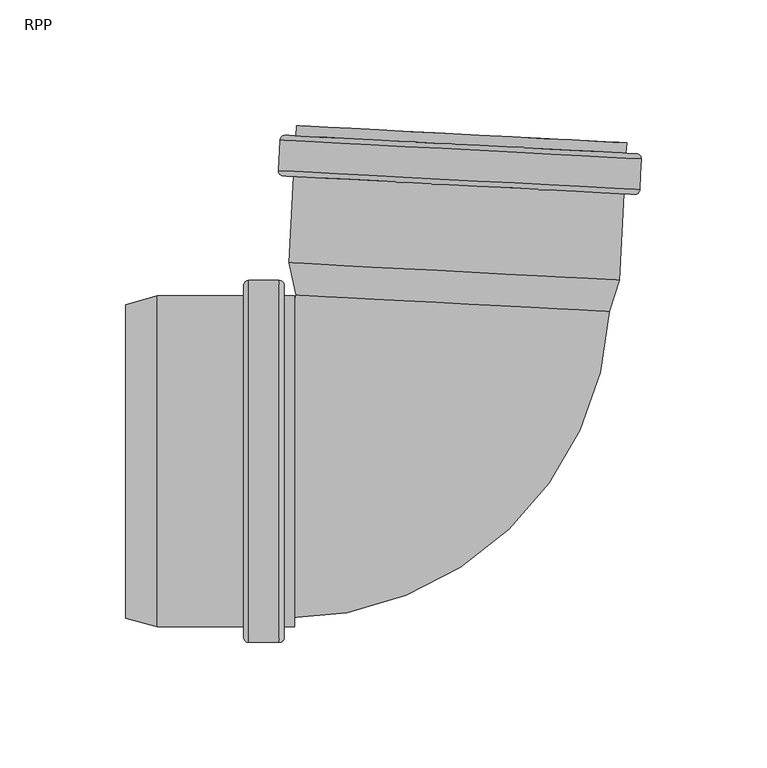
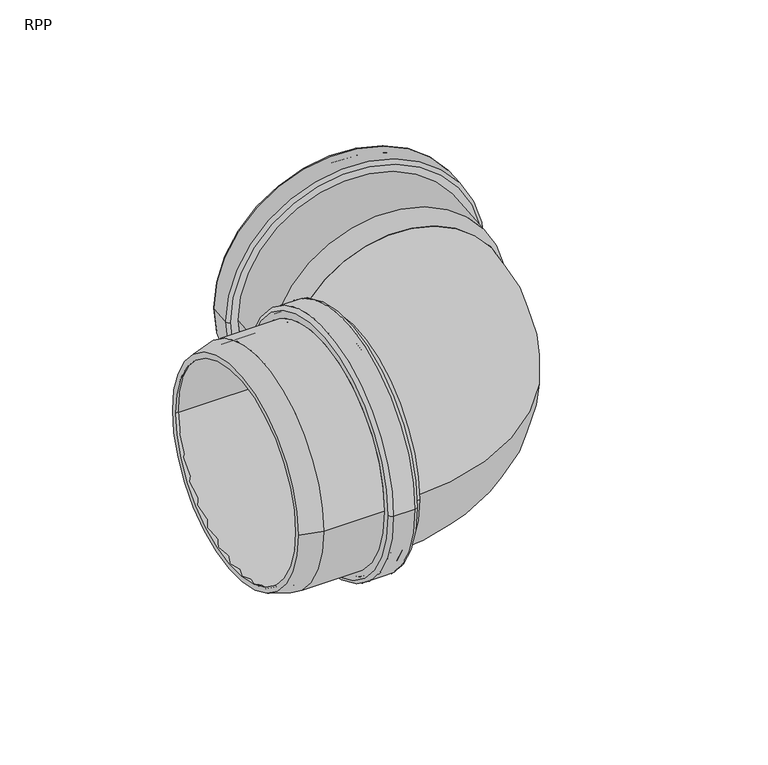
"""IFC4 building model written with IfcOpenShell, lengths in millimetres: pipe fitting geometry, RAUPIANO PLUS Bend : RPP."""

from ifc_helpers import new_model, si_unit, point, frame, origin, place, context, project, spatial, polyline, circle_curve, ellipse_curve, trimmed, source, transform, mapped, element, save
from ifc_brep_helpers import plane_surface, cylinder_surface, revolved_surface, advanced_brep


def rpp_27557139(model_context):
    return source(origin(), model_context, "Body", "AdvancedBrep", [
        advanced_brep(
        [(-76.9061437, -62.8, 0.0), (-76.9061437, 62.8, 0.0), (-114.0090482, 62.8, 0.0), (-114.0090482, -62.8, 0.0), (-76.4061437, -69.0, 0.0), (-76.4061437, 69.0, 0.0), (-76.9061437, 68.5, 0.0), (-76.9061437, -68.5, 0.0), (-67.4061437, -69.0, 0.0), (-67.4061437, 69.0, 0.0), (-66.9061437, -68.5, 0.0), (-66.9061437, 68.5, 0.0), (-59.7061437, -62.8, 0.0), (-59.7061437, 62.8, 0.0), (-66.9061437, 62.8, 0.0), (-66.9061437, -62.8, 0.0), (-63.8061437, -65.9, 0.0), (-63.8061437, 65.9, 0.0), (-59.7061437, 65.9, 0.0), (-59.7061437, -65.9, 0.0), (-65.8061437, -72.1, 0.0), (-65.8061437, 72.1, 0.0), (-63.8061437, 70.1, 0.0), (-63.8061437, -70.1, 0.0), (-78.0061437, -72.1, 0.0), (-78.0061437, 72.1, 0.0), (-80.0061437, -70.1, 0.0), (-80.0061437, 70.1, 0.0), (-114.4171709, -65.9, 0.0), (-114.4171709, 65.9, 0.0), (-80.0061437, 65.9, 0.0), (-80.0061437, -65.9, 0.0), (-127.1061437, -62.5, 0.0), (-127.1061437, 62.5, 0.0), (-127.1061437, 59.2906438, 0.0), (-127.1061437, -59.2906438, 0.0)],
        [
            (0, 1, circle_curve(frame((-76.9061437, 0.0, 0.0), z_axis=(1.0, 0.0, 0.0), x_axis=(0.0, 1.0, 0.0)), 62.8)),
            (1, 2),
            (2, 3, circle_curve(frame((-114.0090482, 0.0, 0.0), z_axis=(-1.0, 0.0, 0.0), x_axis=(0.0, 1.0, 0.0)), 62.8)),
            (3, 0),
            (4, 5, circle_curve(frame((-76.4061437, 0.0, 0.0), z_axis=(1.0, 0.0, 0.0), x_axis=(0.0, 1.0, 0.0)), 69.0)),
            (5, 6, circle_curve(frame((-76.4061437, 68.5, 0.0), z_axis=(0.0, 0.0, 1.0), x_axis=(0.0, -1.0, 0.0)), 0.5)),
            (6, 7, circle_curve(frame((-76.9061437, 0.0, 0.0), z_axis=(-1.0, 0.0, 0.0), x_axis=(0.0, 1.0, 0.0)), 68.5)),
            (7, 4, circle_curve(frame((-76.4061437, -68.5, 0.0), z_axis=(0.0, 0.0, 1.0), x_axis=(0.0, 1.0, 0.0)), 0.5)),
            (8, 9, circle_curve(frame((-67.4061437, 0.0, 0.0), z_axis=(1.0, 0.0, 0.0), x_axis=(0.0, 1.0, 0.0)), 69.0)),
            (9, 5),
            (4, 8),
            (10, 11, circle_curve(frame((-66.9061437, 0.0, 0.0), z_axis=(1.0, 0.0, 0.0), x_axis=(0.0, 1.0, 0.0)), 68.5)),
            (11, 9, circle_curve(frame((-67.4061437, 68.5, 0.0), z_axis=(0.0, 0.0, 1.0), x_axis=(0.0, -1.0, 0.0)), 0.5)),
            (8, 10, circle_curve(frame((-67.4061437, -68.5, 0.0), z_axis=(0.0, 0.0, 1.0), x_axis=(0.0, 1.0, 0.0)), 0.5)),
            (12, 13, circle_curve(frame((-59.7061437, 0.0, 0.0), z_axis=(1.0, 0.0, 0.0), x_axis=(0.0, 1.0, 0.0)), 62.8)),
            (13, 14),
            (14, 15, circle_curve(frame((-66.9061437, 0.0, 0.0), z_axis=(-1.0, 0.0, 0.0), x_axis=(0.0, 1.0, 0.0)), 62.8)),
            (15, 12),
            (16, 17, circle_curve(frame((-63.8061437, 0.0, 0.0), z_axis=(1.0, 0.0, 0.0), x_axis=(0.0, 1.0, 0.0)), 65.9)),
            (17, 18),
            (18, 19, circle_curve(frame((-59.7061437, 0.0, 0.0), z_axis=(-1.0, 0.0, 0.0), x_axis=(0.0, 1.0, 0.0)), 65.9)),
            (19, 16),
            (20, 21, circle_curve(frame((-65.8061437, 0.0, 0.0), z_axis=(1.0, 0.0, 0.0), x_axis=(0.0, 1.0, 0.0)), 72.1)),
            (21, 22, circle_curve(frame((-65.8061437, 70.1, 0.0), z_axis=(0.0, 0.0, -1.0), x_axis=(0.0, -1.0, 0.0)), 2.0)),
            (22, 23, circle_curve(frame((-63.8061437, 0.0, 0.0), z_axis=(-1.0, 0.0, 0.0), x_axis=(0.0, 1.0, 0.0)), 70.1)),
            (23, 20, circle_curve(frame((-65.8061437, -70.1, 0.0), z_axis=(0.0, 0.0, -1.0), x_axis=(0.0, 1.0, 0.0)), 2.0)),
            (24, 25, circle_curve(frame((-78.0061437, 0.0, 0.0), z_axis=(1.0, 0.0, 0.0), x_axis=(0.0, 1.0, 0.0)), 72.1)),
            (25, 21),
            (20, 24),
            (26, 27, circle_curve(frame((-80.0061437, 0.0, 0.0), z_axis=(1.0, 0.0, 0.0), x_axis=(0.0, 1.0, 0.0)), 70.1)),
            (27, 25, circle_curve(frame((-78.0061437, 70.1, 0.0), z_axis=(0.0, 0.0, -1.0), x_axis=(0.0, -1.0, 0.0)), 2.0)),
            (24, 26, circle_curve(frame((-78.0061437, -70.1, 0.0), z_axis=(0.0, 0.0, -1.0), x_axis=(0.0, 1.0, 0.0)), 2.0)),
            (28, 29, circle_curve(frame((-114.4171709, 0.0, 0.0), z_axis=(1.0, 0.0, 0.0), x_axis=(0.0, 1.0, 0.0)), 65.9)),
            (29, 30),
            (30, 31, circle_curve(frame((-80.0061437, 0.0, 0.0), z_axis=(-1.0, 0.0, 0.0), x_axis=(0.0, 1.0, 0.0)), 65.9)),
            (31, 28),
            (32, 33, circle_curve(frame((-127.1061437, 0.0, 0.0), z_axis=(1.0, 0.0, 0.0), x_axis=(0.0, 1.0, 0.0)), 62.5)),
            (33, 29),
            (28, 32),
            (2, 34),
            (34, 35, circle_curve(frame((-127.1061437, 0.0, 0.0), z_axis=(-1.0, 0.0, 0.0), x_axis=(0.0, 1.0, 0.0)), 59.2906438)),
            (35, 3),
            (1, 0, circle_curve(frame((-76.9061437, 0.0, 0.0), z_axis=(1.0, 0.0, 0.0), x_axis=(0.0, -1.0, 0.0)), 62.8)),
            (3, 2, circle_curve(frame((-114.0090482, 0.0, 0.0), z_axis=(-1.0, 0.0, 0.0), x_axis=(0.0, -1.0, 0.0)), 62.8)),
            (6, 7, circle_curve(frame((-76.9061437, 0.0, 0.0), z_axis=(1.0, 0.0, 0.0), x_axis=(0.0, -1.0, 0.0)), 68.5)),
            (5, 4, circle_curve(frame((-76.4061437, 0.0, 0.0), z_axis=(1.0, 0.0, 0.0), x_axis=(0.0, -1.0, 0.0)), 69.0)),
            (9, 8, circle_curve(frame((-67.4061437, 0.0, 0.0), z_axis=(1.0, 0.0, 0.0), x_axis=(0.0, -1.0, 0.0)), 69.0)),
            (11, 10, circle_curve(frame((-66.9061437, 0.0, 0.0), z_axis=(1.0, 0.0, 0.0), x_axis=(0.0, -1.0, 0.0)), 68.5)),
            (14, 15, circle_curve(frame((-66.9061437, 0.0, 0.0), z_axis=(1.0, 0.0, 0.0), x_axis=(0.0, -1.0, 0.0)), 62.8)),
            (13, 12, circle_curve(frame((-59.7061437, 0.0, 0.0), z_axis=(1.0, 0.0, 0.0), x_axis=(0.0, -1.0, 0.0)), 62.8)),
            (18, 19, circle_curve(frame((-59.7061437, 0.0, 0.0), z_axis=(1.0, 0.0, 0.0), x_axis=(0.0, -1.0, 0.0)), 65.9)),
            (17, 16, circle_curve(frame((-63.8061437, 0.0, 0.0), z_axis=(1.0, 0.0, 0.0), x_axis=(0.0, -1.0, 0.0)), 65.9)),
            (22, 23, circle_curve(frame((-63.8061437, 0.0, 0.0), z_axis=(1.0, 0.0, 0.0), x_axis=(0.0, -1.0, 0.0)), 70.1)),
            (21, 20, circle_curve(frame((-65.8061437, 0.0, 0.0), z_axis=(1.0, 0.0, 0.0), x_axis=(0.0, -1.0, 0.0)), 72.1)),
            (25, 24, circle_curve(frame((-78.0061437, 0.0, 0.0), z_axis=(1.0, 0.0, 0.0), x_axis=(0.0, -1.0, 0.0)), 72.1)),
            (27, 26, circle_curve(frame((-80.0061437, 0.0, 0.0), z_axis=(1.0, 0.0, 0.0), x_axis=(0.0, -1.0, 0.0)), 70.1)),
            (30, 31, circle_curve(frame((-80.0061437, 0.0, 0.0), z_axis=(1.0, 0.0, 0.0), x_axis=(0.0, -1.0, 0.0)), 65.9)),
            (29, 28, circle_curve(frame((-114.4171709, 0.0, 0.0), z_axis=(1.0, 0.0, 0.0), x_axis=(0.0, -1.0, 0.0)), 65.9)),
            (33, 32, circle_curve(frame((-127.1061437, 0.0, 0.0), z_axis=(1.0, 0.0, 0.0), x_axis=(0.0, -1.0, 0.0)), 62.5)),
            (34, 35, circle_curve(frame((-127.1061437, 0.0, 0.0), z_axis=(1.0, 0.0, 0.0), x_axis=(0.0, -1.0, 0.0)), 59.2906438)),
        ],
        [
            revolved_surface(polyline([(-114.0090482, 62.8, 0.0), (-76.9061437, 62.8, 0.0)]), (-127.1061437, 0.0, 0.0), (-1.0, 0.0, 0.0)),
            revolved_surface(trimmed(ellipse_curve(frame((-76.4061437, 68.5, 0.0), z_axis=(0.0, 0.0, -1.0), x_axis=(0.0, -1.0, 0.0)), 0.5, 0.5), [point((-76.9061437, 68.5, 0.0))], [point((-76.4061437, 69.0, 0.0))], True, "CARTESIAN"), (-127.1061437, 0.0, 0.0), (-1.0, 0.0, 0.0)),
            revolved_surface(polyline([(-76.4061437, 69.0, 0.0), (-67.4061437, 69.0, 0.0)]), (-127.1061437, 0.0, 0.0), (-1.0, 0.0, 0.0)),
            revolved_surface(trimmed(ellipse_curve(frame((-67.4061437, 68.5, 0.0), z_axis=(0.0, 0.0, -1.0), x_axis=(0.0, -1.0, 0.0)), 0.5, 0.5), [point((-67.4061437, 69.0, 0.0))], [point((-66.9061437, 68.5, 0.0))], True, "CARTESIAN"), (-127.1061437, 0.0, 0.0), (-1.0, 0.0, 0.0)),
            revolved_surface(polyline([(-66.9061437, 62.8, 0.0), (-59.7061437, 62.8, 0.0)]), (-127.1061437, 0.0, 0.0), (-1.0, 0.0, 0.0)),
            cylinder_surface(frame((-127.1061437, 0.0, 0.0), z_axis=(-1.0, 0.0, 0.0), x_axis=(0.0, 1.0, 0.0)), 65.9),
            revolved_surface(trimmed(ellipse_curve(frame((-65.8061437, 70.1, 0.0), z_axis=(0.0, 0.0, 1.0), x_axis=(0.0, -1.0, 0.0)), 2.0, 2.0), [point((-63.8061437, 70.1, 0.0))], [point((-65.8061437, 72.1, 0.0))], True, "CARTESIAN"), (-127.1061437, 0.0, 0.0), (-1.0, 0.0, 0.0)),
            cylinder_surface(frame((-127.1061437, 0.0, 0.0), z_axis=(-1.0, 0.0, 0.0), x_axis=(0.0, 1.0, 0.0)), 72.1),
            revolved_surface(trimmed(ellipse_curve(frame((-78.0061437, 70.1, 0.0), z_axis=(0.0, 0.0, 1.0), x_axis=(0.0, -1.0, 0.0)), 2.0, 2.0), [point((-78.0061437, 72.1, 0.0))], [point((-80.0061437, 70.1, 0.0))], True, "CARTESIAN"), (-127.1061437, 0.0, 0.0), (-1.0, 0.0, 0.0)),
            revolved_surface(polyline([(-114.4171709, 65.9, 0.0), (-127.1061437, 62.5, 0.0)]), (-127.1061437, 0.0, 0.0), (-1.0, 0.0, 0.0)),
            revolved_surface(polyline([(-127.1061437, 59.2906438, 0.0), (-114.0090482, 62.8, 0.0)]), (-127.1061437, 0.0, 0.0), (-1.0, 0.0, 0.0)),
            revolved_surface(polyline([(-114.0090482, -62.8, 0.0), (-76.9061437, -62.8, 0.0)]), (-127.1061437, 0.0, 0.0), (-1.0, 0.0, 0.0)),
            plane_surface(frame((-76.9061437, 0.0, 0.0), z_axis=(1.0, 0.0, 0.0), x_axis=(0.0, -1.0, 0.0))),
            revolved_surface(trimmed(ellipse_curve(frame((-76.4061437, -68.5, 0.0), z_axis=(0.0, 0.0, 1.0), x_axis=(0.0, 1.0, 0.0)), 0.5, 0.5), [point((-76.9061437, -68.5, 0.0))], [point((-76.4061437, -69.0, 0.0))], True, "CARTESIAN"), (-127.1061437, 0.0, 0.0), (-1.0, 0.0, 0.0)),
            revolved_surface(polyline([(-76.4061437, -69.0, 0.0), (-67.4061437, -69.0, 0.0)]), (-127.1061437, 0.0, 0.0), (-1.0, 0.0, 0.0)),
            revolved_surface(trimmed(ellipse_curve(frame((-67.4061437, -68.5, 0.0), z_axis=(0.0, 0.0, 1.0), x_axis=(0.0, 1.0, 0.0)), 0.5, 0.5), [point((-67.4061437, -69.0, 0.0))], [point((-66.9061437, -68.5, 0.0))], True, "CARTESIAN"), (-127.1061437, 0.0, 0.0), (-1.0, 0.0, 0.0)),
            plane_surface(frame((-66.9061437, 0.0, 0.0), z_axis=(-1.0, 0.0, 0.0), x_axis=(0.0, -1.0, 0.0))),
            revolved_surface(polyline([(-66.9061437, -62.8, 0.0), (-59.7061437, -62.8, 0.0)]), (-127.1061437, 0.0, 0.0), (-1.0, 0.0, 0.0)),
            plane_surface(frame((-59.7061437, 0.0, 0.0), z_axis=(1.0, 0.0, 0.0), x_axis=(0.0, -1.0, 0.0))),
            cylinder_surface(frame((-127.1061437, 0.0, 0.0), z_axis=(-1.0, 0.0, 0.0), x_axis=(0.0, -1.0, 0.0)), 65.9),
            plane_surface(frame((-63.8061437, 0.0, 0.0), z_axis=(1.0, 0.0, 0.0), x_axis=(0.0, -1.0, 0.0))),
            revolved_surface(trimmed(ellipse_curve(frame((-65.8061437, -70.1, 0.0), z_axis=(0.0, 0.0, -1.0), x_axis=(0.0, 1.0, 0.0)), 2.0, 2.0), [point((-63.8061437, -70.1, 0.0))], [point((-65.8061437, -72.1, 0.0))], True, "CARTESIAN"), (-127.1061437, 0.0, 0.0), (-1.0, 0.0, 0.0)),
            cylinder_surface(frame((-127.1061437, 0.0, 0.0), z_axis=(-1.0, 0.0, 0.0), x_axis=(0.0, -1.0, 0.0)), 72.1),
            revolved_surface(trimmed(ellipse_curve(frame((-78.0061437, -70.1, 0.0), z_axis=(0.0, 0.0, -1.0), x_axis=(0.0, 1.0, 0.0)), 2.0, 2.0), [point((-78.0061437, -72.1, 0.0))], [point((-80.0061437, -70.1, 0.0))], True, "CARTESIAN"), (-127.1061437, 0.0, 0.0), (-1.0, 0.0, 0.0)),
            plane_surface(frame((-80.0061437, 0.0, 0.0), z_axis=(-1.0, 0.0, 0.0), x_axis=(0.0, -1.0, 0.0))),
            revolved_surface(polyline([(-114.4171709, -65.9, 0.0), (-127.1061437, -62.5, 0.0)]), (-127.1061437, 0.0, 0.0), (-1.0, 0.0, 0.0)),
            plane_surface(frame((-127.1061437, 0.0, 0.0), z_axis=(-1.0, 0.0, 0.0), x_axis=(0.0, -1.0, 0.0))),
            revolved_surface(polyline([(-127.1061437, -59.2906438, 0.0), (-114.0090482, -62.8, 0.0)]), (-127.1061437, 0.0, 0.0), (-1.0, 0.0, 0.0)),
        ],
        [
            (0, [[1, 2, 3, 4]]),
            (1, [[5, 6, 7, 8]]),
            (2, [[9, 10, -5, 11]]),
            (3, [[12, 13, -9, 14]]),
            (4, [[15, 16, 17, 18]]),
            (5, [[19, 20, 21, 22]]),
            (6, [[23, 24, 25, 26]]),
            (7, [[27, 28, -23, 29]]),
            (8, [[30, 31, -27, 32]]),
            (5, [[33, 34, 35, 36]]),
            (9, [[37, 38, -33, 39]]),
            (10, [[-3, 40, 41, 42]]),
            (11, [[43, -4, 44, -2]]),
            (12, [[45, -7], [-43, -1]]),
            (13, [[46, -8, -45, -6]]),
            (14, [[47, -11, -46, -10]]),
            (15, [[48, -14, -47, -13]]),
            (16, [[-48, -12], [49, -17]]),
            (17, [[50, -18, -49, -16]]),
            (18, [[51, -21], [-50, -15]]),
            (19, [[52, -22, -51, -20]]),
            (20, [[53, -25], [-52, -19]]),
            (21, [[54, -26, -53, -24]]),
            (22, [[55, -29, -54, -28]]),
            (23, [[56, -32, -55, -31]]),
            (24, [[-56, -30], [57, -35]]),
            (19, [[58, -36, -57, -34]]),
            (25, [[59, -39, -58, -38]]),
            (26, [[-59, -37], [60, -41]]),
            (27, [[-44, -42, -60, -40]]),
        ],
    ),
        advanced_brep(
        [(62.5121084, 59.9166264, 0.0), (-55.9066677, 66.1226915, 0.0), (-58.7257654, 79.3855033, 0.0), (66.7021042, 72.8121072, 0.0), (69.7764962, 72.2423023, 0.0), (-61.8428764, 79.1401814, 0.0), (-59.1116255, 66.2906562, 0.0), (65.7170663, 59.7486616, 0.0), (71.5774303, 106.6061705, 0.0), (-60.0419424, 113.5040495, 0.0), (78.5121039, 120.4622269, 0.0), (-65.490275, 128.0090718, 0.0), (-66.1287736, 115.8257915, 0.0), (77.8736053, 108.2789466, 0.0), (72.6398502, 126.87835, 0.0), (-58.9795225, 133.7762291, 0.0), (-59.1940999, 129.681848, 0.0), (72.4252727, 122.7839689, 0.0), (69.1672797, 119.8504589, 0.0), (-56.2605898, 126.423855, 0.0), (-55.883771, 133.6139876, 0.0), (69.5440986, 127.0405915, 0.0), (74.8615913, 110.0389953, 0.0), (-62.9492845, 117.2613573, 0.0), (-62.4782609, 126.2490231, 0.0), (75.3326149, 119.0266612, 0.0), (-56.7839494, 116.4375596, 0.0), (68.6439202, 109.8641635, 0.0), (-64.2361865, 113.7238605, 0.0), (75.7716743, 106.3863595, 0.0), (76.6195168, 122.5641579, 0.0), (-63.388344, 129.901659, 0.0), (-61.9527782, 126.7221699, 0.0), (74.8594681, 119.5521439, 0.0), (74.3361085, 109.5658486, 0.0), (-62.4761378, 116.7358746, 0.0)],
        [
            (0, 1, circle_curve(frame((3.3027204, 63.0196589, 0.0), z_axis=(-0.05233595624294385, -0.9986295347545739, 0.0), x_axis=(-0.9986295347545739, 0.05233595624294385, 0.0)), 59.2906438)),
            (1, 2),
            (2, 3, circle_curve(frame((3.9881694, 76.0988053, 0.0), z_axis=(0.05233595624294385, 0.9986295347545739, 0.0), x_axis=(-0.9986295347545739, 0.05233595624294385, 0.0)), 62.8)),
            (3, 0),
            (4, 5, circle_curve(frame((3.9668099, 75.6912419, 0.0), z_axis=(-0.05233595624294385, -0.9986295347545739, 0.0), x_axis=(-0.9986295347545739, 0.05233595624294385, 0.0)), 65.9)),
            (5, 6),
            (6, 7, circle_curve(frame((3.3027204, 63.0196589, 0.0), z_axis=(0.05233595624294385, 0.9986295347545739, 0.0), x_axis=(-0.9986295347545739, 0.05233595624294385, 0.0)), 62.5)),
            (7, 4),
            (8, 9, circle_curve(frame((5.7677439, 110.05511, 0.0), z_axis=(-0.05233595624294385, -0.9986295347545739, 0.0), x_axis=(-0.9986295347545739, 0.05233595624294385, 0.0)), 65.9)),
            (9, 5),
            (4, 8),
            (10, 11, circle_curve(frame((6.5109145, 124.2356494, 0.0), z_axis=(-0.05233595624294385, -0.9986295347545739, 0.0), x_axis=(-0.9986295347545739, 0.05233595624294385, 0.0)), 72.1)),
            (11, 12),
            (12, 13, circle_curve(frame((5.8724158, 112.0523691, 0.0), z_axis=(0.05233595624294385, 0.9986295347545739, 0.0), x_axis=(-0.9986295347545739, 0.05233595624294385, 0.0)), 72.1)),
            (13, 10),
            (14, 15, circle_curve(frame((6.8301638, 130.3272896, 0.0), z_axis=(-0.05233595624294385, -0.9986295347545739, 0.0), x_axis=(-0.9986295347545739, 0.05233595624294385, 0.0)), 65.9)),
            (15, 16),
            (16, 17, circle_curve(frame((6.6155864, 126.2329085, 0.0), z_axis=(0.05233595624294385, 0.9986295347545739, 0.0), x_axis=(-0.9986295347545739, 0.05233595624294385, 0.0)), 65.9)),
            (17, 14),
            (18, 19, circle_curve(frame((6.4533449, 123.1371569, 0.0), z_axis=(-0.05233595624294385, -0.9986295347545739, 0.0), x_axis=(-0.9986295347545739, 0.05233595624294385, 0.0)), 62.8)),
            (19, 20),
            (20, 21, circle_curve(frame((6.8301638, 130.3272896, 0.0), z_axis=(0.05233595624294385, 0.9986295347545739, 0.0), x_axis=(-0.9986295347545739, 0.05233595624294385, 0.0)), 62.8)),
            (21, 18),
            (22, 23, circle_curve(frame((5.9561534, 113.6501763, 0.0), z_axis=(-0.05233595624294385, -0.9986295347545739, 0.0), x_axis=(-0.9986295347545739, 0.05233595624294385, 0.0)), 69.0)),
            (23, 24),
            (24, 25, circle_curve(frame((6.427177, 122.6378421, 0.0), z_axis=(0.05233595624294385, 0.9986295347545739, 0.0), x_axis=(-0.9986295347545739, 0.05233595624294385, 0.0)), 69.0)),
            (25, 22),
            (2, 26),
            (26, 27, circle_curve(frame((5.9299854, 113.1508616, 0.0), z_axis=(0.05233595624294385, 0.9986295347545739, 0.0), x_axis=(-0.9986295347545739, 0.05233595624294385, 0.0)), 62.8)),
            (27, 3),
            (1, 0, circle_curve(frame((3.3027204, 63.0196589, 0.0), z_axis=(-0.05233595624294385, -0.9986295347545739, 0.0), x_axis=(0.9986295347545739, -0.05233595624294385, 0.0)), 59.2906438)),
            (3, 2, circle_curve(frame((3.9881694, 76.0988053, 0.0), z_axis=(0.05233595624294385, 0.9986295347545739, 0.0), x_axis=(0.9986295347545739, -0.05233595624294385, 0.0)), 62.8)),
            (6, 7, circle_curve(frame((3.3027204, 63.0196589, 0.0), z_axis=(-0.05233595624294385, -0.9986295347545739, 0.0), x_axis=(0.9986295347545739, -0.05233595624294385, 0.0)), 62.5)),
            (5, 4, circle_curve(frame((3.9668099, 75.6912419, 0.0), z_axis=(-0.05233595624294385, -0.9986295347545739, 0.0), x_axis=(0.9986295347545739, -0.05233595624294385, 0.0)), 65.9)),
            (9, 8, circle_curve(frame((5.7677439, 110.05511, 0.0), z_axis=(-0.05233595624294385, -0.9986295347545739, 0.0), x_axis=(0.9986295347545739, -0.05233595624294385, 0.0)), 65.9)),
            (28, 29, circle_curve(frame((5.7677439, 110.05511, 0.0), z_axis=(-0.05233595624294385, -0.9986295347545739, 0.0), x_axis=(0.9986295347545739, -0.05233595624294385, 0.0)), 70.1)),
            (29, 28, circle_curve(frame((5.7677439, 110.05511, 0.0), z_axis=(-0.05233595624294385, -0.9986295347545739, 0.0), x_axis=(-0.9986295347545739, 0.05233595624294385, 0.0)), 70.1)),
            (11, 10, circle_curve(frame((6.5109145, 124.2356494, 0.0), z_axis=(-0.05233595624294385, -0.9986295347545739, 0.0), x_axis=(0.9986295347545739, -0.05233595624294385, 0.0)), 72.1)),
            (13, 12, circle_curve(frame((5.8724158, 112.0523691, 0.0), z_axis=(0.05233595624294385, 0.9986295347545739, 0.0), x_axis=(0.9986295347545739, -0.05233595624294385, 0.0)), 72.1)),
            (30, 31, circle_curve(frame((6.6155864, 126.2329085, 0.0), z_axis=(0.05233595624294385, 0.9986295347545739, 0.0), x_axis=(0.9986295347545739, -0.05233595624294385, 0.0)), 70.1)),
            (31, 30, circle_curve(frame((6.6155864, 126.2329085, 0.0), z_axis=(0.05233595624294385, 0.9986295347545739, 0.0), x_axis=(-0.9986295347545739, 0.05233595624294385, 0.0)), 70.1)),
            (16, 17, circle_curve(frame((6.6155864, 126.2329085, 0.0), z_axis=(-0.05233595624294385, -0.9986295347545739, 0.0), x_axis=(0.9986295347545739, -0.05233595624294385, 0.0)), 65.9)),
            (15, 14, circle_curve(frame((6.8301638, 130.3272896, 0.0), z_axis=(-0.05233595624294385, -0.9986295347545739, 0.0), x_axis=(0.9986295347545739, -0.05233595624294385, 0.0)), 65.9)),
            (20, 21, circle_curve(frame((6.8301638, 130.3272896, 0.0), z_axis=(-0.05233595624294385, -0.9986295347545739, 0.0), x_axis=(0.9986295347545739, -0.05233595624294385, 0.0)), 62.8)),
            (19, 18, circle_curve(frame((6.4533449, 123.1371569, 0.0), z_axis=(-0.05233595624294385, -0.9986295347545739, 0.0), x_axis=(0.9986295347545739, -0.05233595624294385, 0.0)), 62.8)),
            (32, 33, circle_curve(frame((6.4533449, 123.1371569, 0.0), z_axis=(-0.05233595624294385, -0.9986295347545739, 0.0), x_axis=(0.9986295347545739, -0.05233595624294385, 0.0)), 68.5)),
            (33, 32, circle_curve(frame((6.4533449, 123.1371569, 0.0), z_axis=(-0.05233595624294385, -0.9986295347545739, 0.0), x_axis=(-0.9986295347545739, 0.05233595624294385, 0.0)), 68.5)),
            (23, 22, circle_curve(frame((5.9561534, 113.6501763, 0.0), z_axis=(-0.05233595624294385, -0.9986295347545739, 0.0), x_axis=(0.9986295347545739, -0.05233595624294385, 0.0)), 69.0)),
            (25, 24, circle_curve(frame((6.427177, 122.6378421, 0.0), z_axis=(0.05233595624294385, 0.9986295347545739, 0.0), x_axis=(0.9986295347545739, -0.05233595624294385, 0.0)), 69.0)),
            (34, 35, circle_curve(frame((5.9299854, 113.1508616, 0.0), z_axis=(0.05233595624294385, 0.9986295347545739, 0.0), x_axis=(0.9986295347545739, -0.05233595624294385, 0.0)), 68.5)),
            (35, 34, circle_curve(frame((5.9299854, 113.1508616, 0.0), z_axis=(0.05233595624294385, 0.9986295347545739, 0.0), x_axis=(-0.9986295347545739, 0.05233595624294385, 0.0)), 68.5)),
            (26, 27, circle_curve(frame((5.9299854, 113.1508616, 0.0), z_axis=(-0.05233595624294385, -0.9986295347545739, 0.0), x_axis=(0.9986295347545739, -0.05233595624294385, 0.0)), 62.8)),
            (12, 28, circle_curve(frame((-64.1315146, 115.7211196, 0.0), z_axis=(0.0, 0.0, 1.0), x_axis=(0.9986295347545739, -0.05233595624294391, 0.0)), 2.0)),
            (29, 13, circle_curve(frame((75.8763462, 108.3836185, 0.0), z_axis=(0.0, 0.0, 1.0), x_axis=(-0.9986295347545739, 0.052335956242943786, 0.0)), 2.0)),
            (31, 11, circle_curve(frame((-63.4930159, 127.9043999, 0.0), z_axis=(0.0, 0.0, 1.0), x_axis=(0.9986295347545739, -0.05233595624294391, 0.0)), 2.0)),
            (10, 30, circle_curve(frame((76.5148449, 120.5668989, 0.0), z_axis=(0.0, 0.0, 1.0), x_axis=(-0.9986295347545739, 0.052335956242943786, 0.0)), 2.0)),
            (24, 32, circle_curve(frame((-61.9789462, 126.2228551, 0.0), z_axis=(0.0, 0.0, -1.0), x_axis=(0.9986295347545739, -0.05233595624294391, 0.0)), 0.5)),
            (33, 25, circle_curve(frame((74.8333001, 119.0528291, 0.0), z_axis=(0.0, 0.0, -1.0), x_axis=(-0.9986295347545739, 0.052335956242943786, 0.0)), 0.5)),
            (35, 23, circle_curve(frame((-62.4499698, 117.2351893, 0.0), z_axis=(0.0, 0.0, -1.0), x_axis=(0.9986295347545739, -0.05233595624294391, 0.0)), 0.5)),
            (22, 34, circle_curve(frame((74.3622765, 110.0651633, 0.0), z_axis=(0.0, 0.0, -1.0), x_axis=(-0.9986295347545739, 0.052335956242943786, 0.0)), 0.5)),
        ],
        [
            revolved_surface(polyline([(-58.7257654, 79.3855033, 0.0), (-55.9066677, 66.1226915, 0.0)]), (3.3027204, 63.0196589, 0.0), (0.05233595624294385, 0.9986295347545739, 0.0)),
            revolved_surface(polyline([(-59.1116255, 66.2906562, 0.0), (-61.8428764, 79.1401814, 0.0)]), (3.3027204, 63.0196589, 0.0), (0.05233595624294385, 0.9986295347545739, 0.0)),
            cylinder_surface(frame((3.3027204, 63.0196589, 0.0), z_axis=(0.05233595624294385, 0.9986295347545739, 0.0), x_axis=(-0.9986295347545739, 0.05233595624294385, 0.0)), 65.9),
            cylinder_surface(frame((3.3027204, 63.0196589, 0.0), z_axis=(0.05233595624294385, 0.9986295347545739, 0.0), x_axis=(-0.9986295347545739, 0.05233595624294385, 0.0)), 72.1),
            revolved_surface(polyline([(-55.88377092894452, 133.6139876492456, 0.0), (-56.26058981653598, 126.42385494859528, 0.0)]), (3.3027204, 63.0196589, 0.0), (0.05233595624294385, 0.9986295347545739, 0.0)),
            revolved_surface(polyline([(-62.47826090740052, 126.24902316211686, 0.0), (-62.94928451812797, 117.26135726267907, 0.0)]), (3.3027204, 63.0196589, 0.0), (0.05233595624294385, 0.9986295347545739, 0.0)),
            revolved_surface(polyline([(-56.78394937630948, 116.43755965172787, 0.0), (-58.72576536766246, 79.38550329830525, 0.0)]), (3.3027204, 63.0196589, 0.0), (0.05233595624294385, 0.9986295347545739, 0.0)),
            revolved_surface(polyline([(66.7021042, 72.8121072, 0.0), (62.5121084, 59.9166264, 0.0)]), (3.3027204, 63.0196589, 0.0), (0.05233595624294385, 0.9986295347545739, 0.0)),
            plane_surface(frame((3.3027204, 63.0196589, 0.0), z_axis=(-0.05233595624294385, -0.9986295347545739, 0.0), x_axis=(0.9986295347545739, -0.05233595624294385, 0.0))),
            revolved_surface(polyline([(65.7170663, 59.7486616, 0.0), (69.7764962, 72.2423023, 0.0)]), (3.3027204, 63.0196589, 0.0), (0.05233595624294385, 0.9986295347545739, 0.0)),
            cylinder_surface(frame((3.3027204, 63.0196589, 0.0), z_axis=(0.05233595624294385, 0.9986295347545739, 0.0), x_axis=(0.9986295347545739, -0.05233595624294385, 0.0)), 65.9),
            plane_surface(frame((5.7677439, 110.05511, 0.0), z_axis=(-0.05233595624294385, -0.9986295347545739, 0.0), x_axis=(0.9986295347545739, -0.05233595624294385, 0.0))),
            cylinder_surface(frame((3.3027204, 63.0196589, 0.0), z_axis=(0.05233595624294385, 0.9986295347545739, 0.0), x_axis=(0.9986295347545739, -0.05233595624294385, 0.0)), 72.1),
            plane_surface(frame((6.6155864, 126.2329085, 0.0), z_axis=(0.05233595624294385, 0.9986295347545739, 0.0), x_axis=(0.9986295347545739, -0.05233595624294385, 0.0))),
            plane_surface(frame((6.8301638, 130.3272896, 0.0), z_axis=(0.05233595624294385, 0.9986295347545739, 0.0), x_axis=(0.9986295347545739, -0.05233595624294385, 0.0))),
            revolved_surface(polyline([(69.54409863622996, 127.04059154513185, 0.0), (69.1672797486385, 119.85045884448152, 0.0)]), (3.3027204, 63.0196589, 0.0), (0.05233595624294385, 0.9986295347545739, 0.0)),
            plane_surface(frame((6.4533449, 123.1371569, 0.0), z_axis=(-0.05233595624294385, -0.9986295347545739, 0.0), x_axis=(0.9986295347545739, -0.05233595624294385, 0.0))),
            revolved_surface(polyline([(75.33261488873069, 119.02666120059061, 0.0), (74.86159127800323, 110.03899530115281, 0.0)]), (3.3027204, 63.0196589, 0.0), (0.05233595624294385, 0.9986295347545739, 0.0)),
            plane_surface(frame((5.9299854, 113.1508616, 0.0), z_axis=(0.05233595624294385, 0.9986295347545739, 0.0), x_axis=(0.9986295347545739, -0.05233595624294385, 0.0))),
            revolved_surface(polyline([(68.643920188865, 109.86416354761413, 0.0), (66.70210419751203, 72.81210719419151, 0.0)]), (3.3027204, 63.0196589, 0.0), (0.05233595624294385, 0.9986295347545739, 0.0)),
            revolved_surface(trimmed(ellipse_curve(frame((-64.1315146, 115.7211196, 0.0), z_axis=(0.0, 0.0, -1.0), x_axis=(0.9986295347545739, -0.05233595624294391, 0.0)), 2.0, 2.0), [point((-64.2361865, 113.7238605, 0.0))], [point((-66.1287736, 115.8257915, 0.0))], True, "CARTESIAN"), (3.3027204, 63.0196589, 0.0), (0.05233595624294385, 0.9986295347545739, 0.0)),
            revolved_surface(trimmed(ellipse_curve(frame((-63.4930159, 127.9043999, 0.0), z_axis=(0.0, 0.0, -1.0), x_axis=(0.9986295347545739, -0.05233595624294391, 0.0)), 2.0, 2.0), [point((-65.490275, 128.0090718, 0.0))], [point((-63.388344, 129.901659, 0.0))], True, "CARTESIAN"), (3.3027204, 63.0196589, 0.0), (0.05233595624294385, 0.9986295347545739, 0.0)),
            revolved_surface(trimmed(ellipse_curve(frame((-61.9789462, 126.2228551, 0.0), z_axis=(0.0, 0.0, 1.0), x_axis=(0.9986295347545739, -0.05233595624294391, 0.0)), 0.5, 0.5), [point((-61.9527782, 126.7221699, 0.0))], [point((-62.4782609, 126.2490231, 0.0))], True, "CARTESIAN"), (3.3027204, 63.0196589, 0.0), (0.05233595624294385, 0.9986295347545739, 0.0)),
            revolved_surface(trimmed(ellipse_curve(frame((-62.4499698, 117.2351893, 0.0), z_axis=(0.0, 0.0, 1.0), x_axis=(0.9986295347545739, -0.05233595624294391, 0.0)), 0.5, 0.5), [point((-62.9492845, 117.2613573, 0.0))], [point((-62.4761378, 116.7358746, 0.0))], True, "CARTESIAN"), (3.3027204, 63.0196589, 0.0), (0.05233595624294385, 0.9986295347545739, 0.0)),
            revolved_surface(trimmed(ellipse_curve(frame((75.8763462, 108.3836185, 0.0), z_axis=(0.0, 0.0, 1.0), x_axis=(-0.9986295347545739, 0.05233595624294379, 0.0)), 2.0, 2.0), [point((75.7716743, 106.3863595, 0.0))], [point((77.8736053, 108.2789466, 0.0))], True, "CARTESIAN"), (3.3027204, 63.0196589, 0.0), (0.05233595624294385, 0.9986295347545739, 0.0)),
            revolved_surface(trimmed(ellipse_curve(frame((76.5148449, 120.5668989, 0.0), z_axis=(0.0, 0.0, 1.0), x_axis=(-0.9986295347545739, 0.05233595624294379, 0.0)), 2.0, 2.0), [point((78.5121039, 120.4622269, 0.0))], [point((76.6195168, 122.5641579, 0.0))], True, "CARTESIAN"), (3.3027204, 63.0196589, 0.0), (0.05233595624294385, 0.9986295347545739, 0.0)),
            revolved_surface(trimmed(ellipse_curve(frame((74.8333001, 119.0528291, 0.0), z_axis=(0.0, 0.0, -1.0), x_axis=(-0.9986295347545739, 0.05233595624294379, 0.0)), 0.5, 0.5), [point((74.8594681, 119.5521439, 0.0))], [point((75.3326149, 119.0266612, 0.0))], True, "CARTESIAN"), (3.3027204, 63.0196589, 0.0), (0.05233595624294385, 0.9986295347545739, 0.0)),
            revolved_surface(trimmed(ellipse_curve(frame((74.3622765, 110.0651633, 0.0), z_axis=(0.0, 0.0, -1.0), x_axis=(-0.9986295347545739, 0.05233595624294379, 0.0)), 0.5, 0.5), [point((74.8615913, 110.0389953, 0.0))], [point((74.3361085, 109.5658486, 0.0))], True, "CARTESIAN"), (3.3027204, 63.0196589, 0.0), (0.05233595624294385, 0.9986295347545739, 0.0)),
        ],
        [
            (0, [[1, 2, 3, 4]]),
            (1, [[5, 6, 7, 8]]),
            (2, [[9, 10, -5, 11]]),
            (3, [[12, 13, 14, 15]]),
            (2, [[16, 17, 18, 19]]),
            (4, [[20, 21, 22, 23]]),
            (5, [[24, 25, 26, 27]]),
            (6, [[-3, 28, 29, 30]]),
            (7, [[31, -4, 32, -2]]),
            (8, [[33, -7], [-31, -1]]),
            (9, [[34, -8, -33, -6]]),
            (10, [[35, -11, -34, -10]]),
            (11, [[36, 37], [-35, -9]]),
            (12, [[38, -15, 39, -13]]),
            (13, [[40, 41], [42, -18]]),
            (10, [[43, -19, -42, -17]]),
            (14, [[-43, -16], [44, -22]]),
            (15, [[45, -23, -44, -21]]),
            (16, [[46, 47], [-45, -20]]),
            (17, [[48, -27, 49, -25]]),
            (18, [[50, 51], [52, -29]]),
            (19, [[-32, -30, -52, -28]]),
            (20, [[-14, 53, -37, 54]]),
            (21, [[-41, 55, -12, 56]]),
            (22, [[-26, 57, -47, 58]]),
            (23, [[-51, 59, -24, 60]]),
            (24, [[-39, -54, -36, -53]]),
            (25, [[-40, -56, -38, -55]]),
            (26, [[-49, -58, -46, -57]]),
            (27, [[-50, -60, -48, -59]]),
        ],
    ),
        advanced_brep(
        [(-63.1061437, 59.4, 0.0), (-63.1061437, -59.4, 0.0), (-127.1061437, -59.4, 0.0), (-127.1061437, 59.4, 0.0), (-118.5224268, 62.5, 0.0), (-118.5224268, -62.5, 0.0), (-63.1061437, -62.5, 0.0), (-63.1061437, 62.5, 0.0), (-127.1061437, 60.2, 0.0), (-127.1061437, -60.2, 0.0)],
        [
            (0, 1, circle_curve(frame((-63.1061437, 0.0, 0.0), z_axis=(1.0, 0.0, 0.0), x_axis=(0.0, -1.0, 0.0)), 59.4)),
            (1, 2),
            (2, 3, circle_curve(frame((-127.1061437, 0.0, 0.0), z_axis=(-1.0, 0.0, 0.0), x_axis=(0.0, -1.0, 0.0)), 59.4)),
            (3, 0),
            (4, 5, circle_curve(frame((-118.5224268, 0.0, 0.0), z_axis=(1.0, 0.0, 0.0), x_axis=(0.0, -1.0, 0.0)), 62.5)),
            (5, 6),
            (6, 7, circle_curve(frame((-63.1061437, 0.0, 0.0), z_axis=(-1.0, 0.0, 0.0), x_axis=(0.0, -1.0, 0.0)), 62.5)),
            (7, 4),
            (8, 9, circle_curve(frame((-127.1061437, 0.0, 0.0), z_axis=(1.0, 0.0, 0.0), x_axis=(0.0, -1.0, 0.0)), 60.2)),
            (9, 5),
            (4, 8),
            (1, 0, circle_curve(frame((-63.1061437, 0.0, 0.0), z_axis=(1.0, 0.0, 0.0), x_axis=(0.0, 1.0, 0.0)), 59.4)),
            (3, 2, circle_curve(frame((-127.1061437, 0.0, 0.0), z_axis=(-1.0, 0.0, 0.0), x_axis=(0.0, 1.0, 0.0)), 59.4)),
            (6, 7, circle_curve(frame((-63.1061437, 0.0, 0.0), z_axis=(1.0, 0.0, 0.0), x_axis=(0.0, 1.0, 0.0)), 62.5)),
            (5, 4, circle_curve(frame((-118.5224268, 0.0, 0.0), z_axis=(1.0, 0.0, 0.0), x_axis=(0.0, 1.0, 0.0)), 62.5)),
            (9, 8, circle_curve(frame((-127.1061437, 0.0, 0.0), z_axis=(1.0, 0.0, 0.0), x_axis=(0.0, 1.0, 0.0)), 60.2)),
        ],
        [
            revolved_surface(polyline([(-127.10614369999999, -59.4, 0.0), (-63.1061437, -59.4, 0.0)]), (-63.1061437, 0.0, 0.0), (-1.0, 0.0, 0.0)),
            cylinder_surface(frame((-63.1061437, 0.0, 0.0), z_axis=(-1.0, 0.0, 0.0), x_axis=(0.0, -1.0, 0.0)), 62.5),
            revolved_surface(polyline([(-118.5224268, -62.5, 0.0), (-127.1061437, -60.2, 0.0)]), (-63.1061437, 0.0, 0.0), (-1.0, 0.0, 0.0)),
            revolved_surface(polyline([(-127.10614369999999, 59.4, 0.0), (-63.1061437, 59.4, 0.0)]), (-63.1061437, 0.0, 0.0), (-1.0, 0.0, 0.0)),
            plane_surface(frame((-63.1061437, 0.0, 0.0), z_axis=(1.0, 0.0, 0.0), x_axis=(0.0, 1.0, 0.0))),
            cylinder_surface(frame((-63.1061437, 0.0, 0.0), z_axis=(-1.0, 0.0, 0.0), x_axis=(0.0, 1.0, 0.0)), 62.5),
            revolved_surface(polyline([(-118.5224268, 62.5, 0.0), (-127.1061437, 60.2, 0.0)]), (-63.1061437, 0.0, 0.0), (-1.0, 0.0, 0.0)),
            plane_surface(frame((-127.1061437, 0.0, 0.0), z_axis=(-1.0, 0.0, 0.0), x_axis=(0.0, 1.0, 0.0))),
        ],
        [
            (0, [[1, 2, 3, 4]]),
            (1, [[5, 6, 7, 8]]),
            (2, [[9, 10, -5, 11]]),
            (3, [[12, -4, 13, -2]]),
            (4, [[14, -7], [-12, -1]]),
            (5, [[15, -8, -14, -6]]),
            (6, [[16, -11, -15, -10]]),
            (7, [[-16, -9], [-13, -3]]),
        ],
    ),
        advanced_brep(
        [(-63.1061437, -62.5, 0.0), (-63.1061437, 62.5, 0.0), (-63.1061437, -59.4, 0.0), (-63.1061437, 59.4, 0.0), (65.7170663, 59.7486616, 0.0), (-59.1116255, 66.2906562, 0.0), (62.6213147, 59.9109031, 0.0), (-56.015874, 66.1284147, 0.0)],
        [
            (0, 1, circle_curve(frame((-63.1061437, 0.0, 0.0), z_axis=(-1.0, 0.0, 0.0), x_axis=(0.0, 1.0, 0.0)), 62.5)),
            (1, 0, circle_curve(frame((-63.1061437, 0.0, 0.0), z_axis=(-1.0, 0.0, 0.0), x_axis=(0.0, 1.0, 0.0)), 62.5)),
            (2, 3, circle_curve(frame((-63.1061437, 0.0, 0.0), z_axis=(1.0, 0.0, 0.0), x_axis=(0.0, 1.0, 0.0)), 59.4)),
            (3, 2, circle_curve(frame((-63.1061437, 0.0, 0.0), z_axis=(1.0, 0.0, 0.0), x_axis=(0.0, 1.0, 0.0)), 59.4)),
            (4, 5, circle_curve(frame((3.3027204, 63.0196589, 0.0), z_axis=(0.05233595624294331, 0.9986295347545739, 0.0), x_axis=(-0.9986295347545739, 0.05233595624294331, 0.0)), 62.5)),
            (5, 4, circle_curve(frame((3.3027204, 63.0196589, 0.0), z_axis=(0.05233595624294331, 0.9986295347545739, 0.0), x_axis=(-0.9986295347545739, 0.05233595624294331, 0.0)), 62.5)),
            (6, 7, circle_curve(frame((3.3027204, 63.0196589, 0.0), z_axis=(-0.05233595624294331, -0.9986295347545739, 0.0), x_axis=(-0.9986295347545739, 0.05233595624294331, 0.0)), 59.4)),
            (7, 6, circle_curve(frame((3.3027204, 63.0196589, 0.0), z_axis=(-0.05233595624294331, -0.9986295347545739, 0.0), x_axis=(-0.9986295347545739, 0.05233595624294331, 0.0)), 59.4)),
            (7, 3, circle_curve(frame((-63.1061437, 66.5, 0.0), z_axis=(0.0, 0.0, -1.0), x_axis=(0.0, -1.0, 0.0)), 7.1)),
            (2, 6, circle_curve(frame((-63.1061437, 66.5, 0.0), z_axis=(0.0, 0.0, 1.0), x_axis=(0.0, -1.0, 0.0)), 125.9)),
            (5, 1, circle_curve(frame((-63.1061437, 66.5, 0.0), z_axis=(0.0, 0.0, -1.0), x_axis=(0.0, -1.0, 0.0)), 4.0)),
            (0, 4, circle_curve(frame((-63.1061437, 66.5, 0.0), z_axis=(0.0, 0.0, 1.0), x_axis=(0.0, -1.0, 0.0)), 129.0)),
        ],
        [
            plane_surface(frame((-63.1061437, 0.0, 0.0), z_axis=(-1.0, 0.0, 0.0), x_axis=(0.0, 0.0, 1.0))),
            plane_surface(frame((3.3027204, 63.0196589, 0.0), z_axis=(0.05233595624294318, 0.9986295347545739, 0.0), x_axis=(0.0, 0.0, 1.0))),
            revolved_surface(trimmed(ellipse_curve(frame((-63.1061437, 0.0, 0.0), z_axis=(1.0, 0.0, 0.0), x_axis=(0.0, 1.0, 0.0)), 59.4, 59.4), [point((-63.1061437, -59.4, 0.0))], [point((-63.1061437, 59.4, 0.0))], True, "CARTESIAN"), (-63.1061437, 66.5, 0.0), (0.0, 0.0, 1.0)),
            revolved_surface(trimmed(ellipse_curve(frame((-63.1061437, 0.0, 0.0), z_axis=(1.0, 0.0, 0.0), x_axis=(0.0, 1.0, 0.0)), 59.4, 59.4), [point((-63.1061437, 59.4, 0.0))], [point((-63.1061437, -59.4, 0.0))], True, "CARTESIAN"), (-63.1061437, 66.5, 0.0), (0.0, 0.0, 1.0)),
            revolved_surface(trimmed(ellipse_curve(frame((-63.1061437, 0.0, 0.0), z_axis=(-1.0, 0.0, 0.0), x_axis=(0.0, 1.0, 0.0)), 62.5, 62.5), [point((-63.1061437, -62.5, 0.0))], [point((-63.1061437, 62.5, 0.0))], True, "CARTESIAN"), (-63.1061437, 66.5, 0.0), (0.0, 0.0, 1.0)),
            revolved_surface(trimmed(ellipse_curve(frame((-63.1061437, 0.0, 0.0), z_axis=(-1.0, 0.0, 0.0), x_axis=(0.0, 1.0, 0.0)), 62.5, 62.5), [point((-63.1061437, 62.5, 0.0))], [point((-63.1061437, -62.5, 0.0))], True, "CARTESIAN"), (-63.1061437, 66.5, 0.0), (0.0, 0.0, 1.0)),
        ],
        [
            (0, [[1, 2], [3, 4]]),
            (1, [[5, 6], [7, 8]]),
            (2, [[9, -3, 10, -8]]),
            (3, [[-10, -4, -9, -7]]),
            (4, [[11, -1, 12, -6]]),
            (5, [[-12, -2, -11, -5]]),
        ],
    ),
    ])


if __name__ == "__main__":
    model = new_model("IFC4")
    model_context = context("Model", 3, world=origin())
    ifc_project = project(units=[si_unit("LENGTHUNIT", "METRE", prefix="MILLI")], contexts=[model_context])
    site = spatial("IfcSite", under=ifc_project)
    building = spatial("IfcBuilding", under=site)
    placement = place(None, origin())
    rpp_shape = rpp_27557139(model_context)
    element("IfcPipeFitting", 1, ObjectType="RAUPIANO PLUS Bend : RPP", at=placement, inside=building, context=model_context, shape_type="MappedRepresentation", body=[
        mapped(rpp_shape, transform((0.0, 0.0, 0.0), x_axis=(1.0, 0.0, 0.0), y_axis=(0.0, 1.0, 0.0), z_axis=(0.0, 0.0, 1.0))),
    ])
    save(model, "model.ifc")
